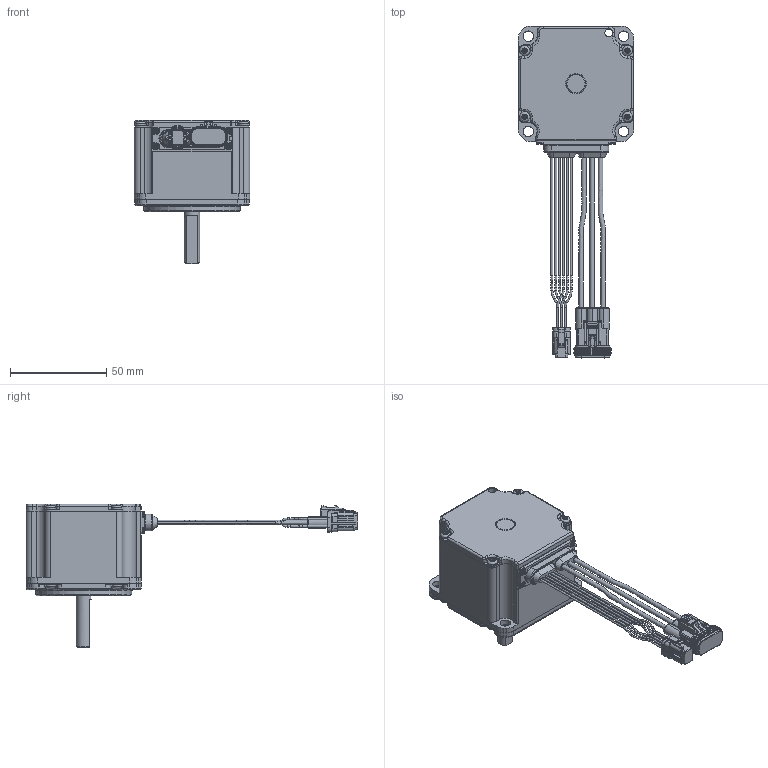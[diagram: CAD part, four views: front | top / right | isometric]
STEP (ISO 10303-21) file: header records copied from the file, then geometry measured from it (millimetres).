
FILE_DESCRIPTION(/* description */ (''),/* implementation_level */ '2;1');
FILE_NAME(/* name */ 'IS74BZA標準仕様_外観図_最新.stp',/* time_stamp */ '2024-02-22T13:44:31+09:00',/* author */ (''),/* organization */ (''),/* preprocessor_version */ 'ST-DEVELOPER v18.101',/* originating_system */ 'SIEMENS PLM Software NX 2011',/* authorisation */ '');
FILE_SCHEMA (('AUTOMOTIVE_DESIGN { 1 0 10303 214 3 1 1 1 }'));
Products named in the file (1): IS74BZA標準仕様_外観図_最新
Bounding box: 60 x 172.5 x 74.52 mm (x, y, z)
Volume: 155340.7 mm3; surface area: 26806.4 mm2
Topology: 1 solids, 308 shells, 1602 faces, 4669 edges, 3368 vertices
Faces by surface type: cylinder 706, plane 451, torus 301, cone 57, sphere 54, bspline 33
Full cylindrical faces by diameter (mm): 1 x30, 1.7 x4, 1.9 x4, 2.349 x1, 2.63 x6, 3 x8, 3.025 x4, 3.04 x1, 3.5 x8, 4 x3, 5.25 x8, 5.3 x4, 5.45 x4, 7.989 x1, 8.004 x1, 10 x1, 22 x1, 49.98 x1
Entity records: 58789 total; most frequent: CARTESIAN_POINT 14464, DIRECTION 8092, ORIENTED_EDGE 7334, EDGE_CURVE 4374, VERTEX_POINT 3299, AXIS2_PLACEMENT_3D 3099, LINE 1894, VECTOR 1894
